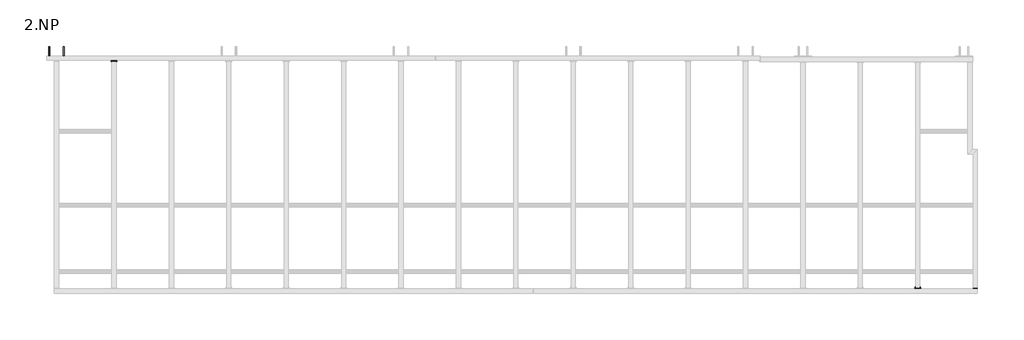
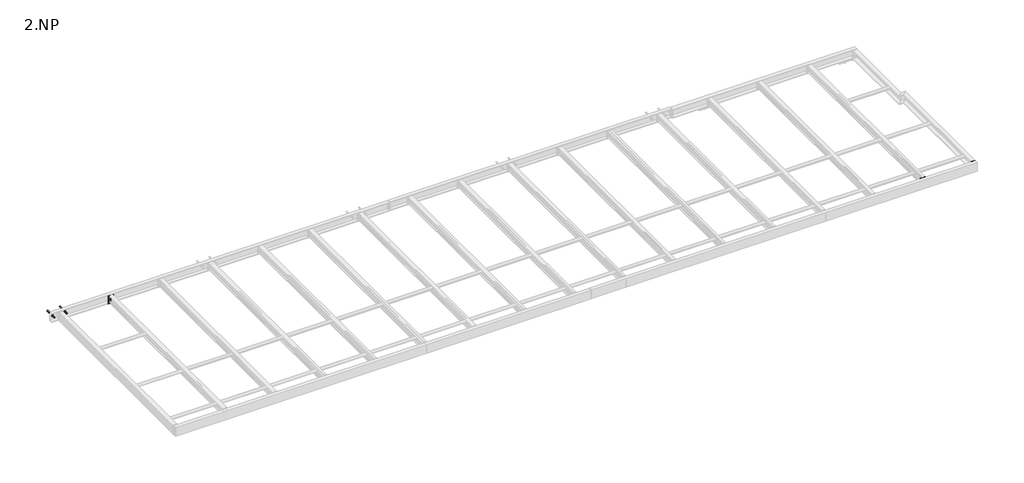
# One storey, part 8 of 18: 13 proxies.
"""IFC4 building model written with IfcOpenShell, lengths in millimetres."""

import ifcopenshell
import ifcopenshell.guid

model = None  # the IFC model being written
_history = None  # IfcOwnerHistory: only IFC2X3 demands one
_inside = {}  # id of a spatial element -> (the spatial element, [elements in it])
_under = {}  # id of a project, library or spatial element -> (it, [spatial elements below it])
_declared = {}  # id of a project -> (the project, [libraries it declares])
_typed = {}  # id of a type object -> (the type object, [elements of that type])
_made_of = {}  # id of a material, layer set ... -> (it, [elements and type objects made of it])


def new_model(schema):
    """Start an empty IFC model of exactly this schema.

    Asked for "IFC4X3", IfcOpenShell would pick the latest addendum, in which some entities
    have other attributes; the version numbers below select the first issue.
    IFC2X3 requires an IfcOwnerHistory on every rooted entity: one is made here for all.
    """
    global model, _history
    if schema == "IFC4X3":
        model = ifcopenshell.file(schema_version=(4, 3, 0, 0))
    else:
        model = ifcopenshell.file(schema=schema)
    _inside.clear()
    _under.clear()
    _declared.clear()
    _typed.clear()
    _made_of.clear()
    _history = None
    if model.schema == "IFC2X3":
        org = make("IfcOrganization", Name="unknown")
        user = make(
            "IfcPersonAndOrganization",
            ThePerson=make("IfcPerson", FamilyName="unknown"),
            TheOrganization=org,
        )
        app = make(
            "IfcApplication",
            ApplicationDeveloper=org,
            Version="unknown",
            ApplicationFullName="unknown",
            ApplicationIdentifier="unknown",
        )
        _history = make(
            "IfcOwnerHistory",
            OwningUser=user,
            OwningApplication=app,
            ChangeAction="ADDED",
            CreationDate=0,
        )
    return model


def make(cls, **values):
    """One entity of the class cls with the attributes given. An attribute that is None is left unset."""
    return model.create_entity(
        cls, **{name: value for name, value in values.items() if value is not None}
    )


def rooted(cls, **values):
    """An entity with a GlobalId (a new one), such as an element, a storey or a relation."""
    return make(cls, GlobalId=ifcopenshell.guid.new(), OwnerHistory=_history, **values)


def si_unit(unit_type, name, prefix=None):
    """IfcSIUnit, for example si_unit("LENGTHUNIT", "METRE", prefix="MILLI")."""
    return make("IfcSIUnit", UnitType=unit_type, Prefix=prefix, Name=name)


def assignment(units):
    """IfcUnitAssignment: the units of a project."""
    return None if units is None else make("IfcUnitAssignment", Units=units)


def point(xyz):
    """IfcCartesianPoint."""
    return None if xyz is None else make("IfcCartesianPoint", Coordinates=xyz)


def direction(xyz):
    """IfcDirection."""
    return None if xyz is None else make("IfcDirection", DirectionRatios=xyz)


def frame(location, z_axis=None, x_axis=None):
    """IfcAxis2Placement3D, a coordinate frame: its origin and axes. An axis left out is left unset."""
    return make(
        "IfcAxis2Placement3D",
        Location=point(location),
        Axis=direction(z_axis),
        RefDirection=direction(x_axis),
    )


def frame_2d(location, x_axis=None):
    """IfcAxis2Placement2D, a coordinate frame in the plane: its origin and x axis."""
    return make(
        "IfcAxis2Placement2D", Location=point(location), RefDirection=direction(x_axis)
    )


def origin():
    """The frame at (0, 0, 0) with its axes left unset."""
    return frame((0.0, 0.0, 0.0))


def place(relative_to, where):
    """IfcLocalPlacement: puts the frame where relative to a parent placement (None: the world)."""
    return make(
        "IfcLocalPlacement", PlacementRelTo=relative_to, RelativePlacement=where
    )


def context(
    kind, dimensions, precision=None, world=None, true_north=None, identifier=None
):
    """IfcGeometricRepresentationContext, for example the 3D "Model" context."""
    return make(
        "IfcGeometricRepresentationContext",
        ContextIdentifier=identifier,
        ContextType=kind,
        CoordinateSpaceDimension=dimensions,
        Precision=precision,
        WorldCoordinateSystem=world,
        TrueNorth=true_north,
    )


def project(units=None, contexts=None):
    """IfcProject with its units and contexts."""
    return rooted(
        "IfcProject",
        Name="project",
        RepresentationContexts=contexts,
        UnitsInContext=assignment(units),
    )


def spatial(cls, under=None, at=None, **own):
    """A site, building, storey or space (cls), placed at a placement, below another one or the project."""
    s = rooted(cls, ObjectPlacement=at, **own)
    if under is not None:
        _under.setdefault(under.id(), (under, []))[1].append(s)
    return s


def polyline(points):
    """IfcPolyline through the points."""
    return make("IfcPolyline", Points=[point(p) for p in points])


def circle_curve(where, radius):
    """IfcCircle in the frame where."""
    return make("IfcCircle", Position=where, Radius=radius)


def trimmed(basis, trim1, trim2, sense, master):
    """IfcTrimmedCurve: the piece of a basis curve between two trims."""
    return make(
        "IfcTrimmedCurve",
        BasisCurve=basis,
        Trim1=trim1,
        Trim2=trim2,
        SenseAgreement=sense,
        MasterRepresentation=master,
    )


def segment(curve, same_sense, transition):
    """IfcCompositeCurveSegment."""
    return make(
        "IfcCompositeCurveSegment",
        Transition=transition,
        SameSense=same_sense,
        ParentCurve=curve,
    )


def composite_curve(segments, self_intersect=None):
    """IfcCompositeCurve: segments joined end to end."""
    return make("IfcCompositeCurve", Segments=segments, SelfIntersect=self_intersect)


def outline(outer, holes=None, kind="AREA"):
    """IfcArbitraryClosedProfileDef: a profile drawn as a closed curve; with holes, ...WithVoids."""
    if holes is None:
        return make("IfcArbitraryClosedProfileDef", ProfileType=kind, OuterCurve=outer)
    return make(
        "IfcArbitraryProfileDefWithVoids",
        ProfileType=kind,
        OuterCurve=outer,
        InnerCurves=holes,
    )


def extrude(swept, where, along, depth):
    """IfcExtrudedAreaSolid: the profile swept, set in the frame where, extruded along a direction by depth."""
    return make(
        "IfcExtrudedAreaSolid",
        SweptArea=swept,
        Position=where,
        ExtrudedDirection=direction(along),
        Depth=depth,
    )


def shape(context_of_items, identifier, shape_type, items):
    """IfcShapeRepresentation: the items that make up one representation, for example the "Body"."""
    return make(
        "IfcShapeRepresentation",
        ContextOfItems=context_of_items,
        RepresentationIdentifier=identifier,
        RepresentationType=shape_type,
        Items=items,
    )


def made_of(thing, what):
    """Note that an element or type object is made of a material, layer set ...; save() writes the relation."""
    if what is not None:
        _made_of.setdefault(what.id(), (what, []))[1].append(thing)
    return thing


def element(
    cls,
    number,
    at=None,
    inside=None,
    cuts=None,
    type_object=None,
    material=None,
    context=None,
    identifier="Body",
    shape_type=None,
    held_by="IfcProductDefinitionShape",
    body=None,
    shapes=None,
    **own,
):
    """One element of the class cls, such as IfcWall. Its Tag is "e" and its number.

    at: its placement. inside: the storey or other place that contains it. cuts: it is an
    opening in that element (IfcRelVoidsElement). A single representation is given by context,
    identifier, shape_type and body (its items); several are given by shapes. held_by: the class
    of the entity that holds the representations. save() writes the other relations.
    """
    e = rooted(cls, Tag="e%d" % number, ObjectPlacement=at, **own)
    if body is not None:
        shapes = [shape(context, identifier, shape_type, body)]
    if shapes is not None:
        e.Representation = make(held_by, Representations=shapes)
    if inside is not None:
        _inside.setdefault(inside.id(), (inside, []))[1].append(e)
    if cuts is not None:
        rooted(
            "IfcRelVoidsElement", RelatingBuildingElement=cuts, RelatedOpeningElement=e
        )
    if type_object is not None:
        _typed.setdefault(type_object.id(), (type_object, []))[1].append(e)
    return made_of(e, material)


def aggregate(whole, parts):
    """IfcRelAggregates: a whole, such as a stair, and the parts it consists of."""
    return rooted("IfcRelAggregates", RelatingObject=whole, RelatedObjects=parts)


def save(model, path):
    """Write the relations noted so far, then the file.

    IfcRelAggregates (storeys below a building ...), IfcRelContainedInSpatialStructure (elements
    in a storey), IfcRelDefinesByType, IfcRelAssociatesMaterial and IfcRelDeclares: one each for
    every whole, place, type object, material and project.
    """
    for whole, parts in _under.values():
        aggregate(whole, parts)
    for where, things in _inside.values():
        rooted(
            "IfcRelContainedInSpatialStructure",
            RelatedElements=things,
            RelatingStructure=where,
        )
    for kind, things in _typed.values():
        rooted("IfcRelDefinesByType", RelatedObjects=things, RelatingType=kind)
    for what, things in _made_of.values():
        rooted("IfcRelAssociatesMaterial", RelatedObjects=things, RelatingMaterial=what)
    for by, libraries in _declared.values():
        rooted("IfcRelDeclares", RelatingContext=by, RelatedDefinitions=libraries)
    model.write(path)


model = new_model("IFC4")

# Units and contexts
model_context = context("Model", 3, world=origin())
ifc_project = project(units=[si_unit("LENGTHUNIT", "METRE", prefix="MILLI")], contexts=[model_context])

# Site, building, storey
site = spatial("IfcSite", under=ifc_project)
building = spatial("IfcBuilding", under=site)
storey = spatial("IfcBuildingStorey", under=building, Name="2.NP", Elevation=3000.0)

# Proxies
placement = place(None, origin())
element("IfcBuildingElementProxy", 1, Name="PLECH", ObjectType="PLECH", at=placement, inside=storey, context=model_context, shape_type="SweptSolid", body=[
    extrude(outline(polyline([(15000.0, -180.0), (15100.0, -180.0), (15100.0, -190.0), (15000.0, -190.0), (15000.0, -180.0)])), frame((0.0, 0.0, 3166.5), z_axis=(0.0, 0.0, 1.0), x_axis=(1.0, 0.0, 0.0)), (0.0, 0.0, 1.0), 127.0),
])
element("IfcBuildingElementProxy", 2, Name="PLECH", ObjectType="PLECH", at=placement, inside=storey, context=model_context, shape_type="SweptSolid", body=[
    extrude(outline(polyline([(1000.0, 3775.0), (1100.0, 3775.0), (1100.0, 3767.0), (1000.0, 3767.0), (1000.0, 3775.0)])), frame((0.0, 0.0, 3175.0), z_axis=(0.0, 0.0, 1.0), x_axis=(1.0, 0.0, 0.0)), (0.0, 0.0, 1.0), 110.0),
])
element("IfcBuildingElementProxy", 3, Name="PLECH", ObjectType="PLECH", at=placement, inside=storey, context=model_context, shape_type="SweptSolid", body=[
    extrude(outline(polyline([(16015.0, -180.0), (16090.0, -180.0), (16090.0, -190.0), (16015.0, -190.0), (16015.0, -180.0)])), frame((0.0, 0.0, 3130.0), z_axis=(0.0, 0.0, 1.0), x_axis=(1.0, 0.0, 0.0)), (0.0, 0.0, 1.0), 160.0),
])
element("IfcBuildingElementProxy", 4, Name="PLECH", ObjectType="PLECH", at=placement, inside=storey, context=model_context, shape_type="SweptSolid", body=[
    extrude(outline(polyline([(15000.0, -190.0), (15100.0, -190.0), (15100.0, -200.0), (15000.0, -200.0), (15000.0, -190.0)])), frame((0.0, 0.0, 3127.5), z_axis=(0.0, 0.0, 1.0), x_axis=(1.0, 0.0, 0.0)), (0.0, 0.0, 1.0), 166.0000153),
])
element("IfcBuildingElementProxy", 5, Name="PLECH", ObjectType="PLECH", at=placement, inside=storey, context=model_context, shape_type="SweptSolid", body=[
    extrude(outline(composite_curve([segment(polyline([(-200.0, 3289.5), (-200.0, 3130.5), (-249.5, 3130.5)]), True, "CONTINUOUS"), segment(trimmed(circle_curve(frame_2d((-269.5, 3130.5)), 20.0), [point((-249.5, 3130.5))], [point((-269.5, 3150.5))], True, "CARTESIAN"), True, "CONTINUOUS"), segment(polyline([(-269.5, 3150.5), (-269.5, 3269.5)]), True, "CONTINUOUS"), segment(trimmed(circle_curve(frame_2d((-269.5, 3289.5)), 20.0), [point((-269.5, 3269.5))], [point((-249.5, 3289.5))], True, "CARTESIAN"), True, "CONTINUOUS"), segment(polyline([(-249.5, 3289.5), (-200.0, 3289.5)]), True, "CONTINUOUS")], self_intersect=False)), frame((15046.0, 0.0, 0.0), z_axis=(1.0, 0.0, 0.0), x_axis=(0.0, 1.0, 0.0)), (0.0, 0.0, 1.0), 8.0),
])
element("IfcBuildingElementProxy", 6, Name="PLECH", ObjectType="PLECH", at=placement, inside=storey, context=model_context, shape_type="SweptSolid", body=[
    extrude(outline(polyline([(16015.0, -190.0), (16090.0, -190.0), (16090.0, -200.0), (16015.0, -200.0), (16015.0, -190.0)])), frame((0.0, 0.0, 3130.0), z_axis=(0.0, 0.0, 1.0), x_axis=(1.0, 0.0, 0.0)), (0.0, 0.0, 1.0), 160.0),
])
element("IfcBuildingElementProxy", 7, Name="PLECH", ObjectType="PLECH", at=placement, inside=storey, context=model_context, shape_type="SweptSolid", body=[
    extrude(outline(composite_curve([segment(polyline([(-200.0, 3289.5), (-200.0, 3130.5), (-249.5, 3130.5)]), True, "CONTINUOUS"), segment(trimmed(circle_curve(frame_2d((-269.5, 3130.5)), 20.0), [point((-249.5, 3130.5))], [point((-269.5, 3150.5))], True, "CARTESIAN"), True, "CONTINUOUS"), segment(polyline([(-269.5, 3150.5), (-269.5, 3269.5)]), True, "CONTINUOUS"), segment(trimmed(circle_curve(frame_2d((-269.5, 3289.5)), 20.0), [point((-269.5, 3269.5))], [point((-249.5, 3289.5))], True, "CARTESIAN"), True, "CONTINUOUS"), segment(polyline([(-249.5, 3289.5), (-200.0, 3289.5)]), True, "CONTINUOUS")], self_intersect=False)), frame((16076.5, 0.0, 0.0), z_axis=(1.0, 0.0, 0.0), x_axis=(0.0, 1.0, 0.0)), (0.0, 0.0, 1.0), 8.0),
])
element("IfcBuildingElementProxy", 8, Name="PLECH", ObjectType="PLECH", at=placement, inside=storey, context=model_context, shape_type="SweptSolid", body=[
    extrude(outline(polyline([(1000.0, 3785.0), (1100.0, 3785.0), (1100.0, 3775.0), (1000.0, 3775.0), (1000.0, 3785.0)])), frame((0.0, 0.0, 3128.0), z_axis=(0.0, 0.0, 1.0), x_axis=(1.0, 0.0, 0.0)), (0.0, 0.0, 1.0), 164.0),
])
element("IfcBuildingElementProxy", 9, Name="PLECH", ObjectType="PLECH", at=placement, inside=storey, context=model_context, shape_type="SweptSolid", body=[
    extrude(outline(composite_curve([segment(polyline([(3785.0, 3289.5), (3834.5, 3289.5)]), True, "CONTINUOUS"), segment(trimmed(circle_curve(frame_2d((3854.5, 3289.5)), 20.0), [point((3834.5, 3289.5))], [point((3854.5, 3269.5))], True, "CARTESIAN"), True, "CONTINUOUS"), segment(polyline([(3854.5, 3269.5), (3854.5, 3150.5)]), True, "CONTINUOUS"), segment(trimmed(circle_curve(frame_2d((3854.5, 3130.5)), 20.0), [point((3854.5, 3150.5))], [point((3834.5, 3130.5))], True, "CARTESIAN"), True, "CONTINUOUS"), segment(polyline([(3834.5, 3130.5), (3785.0, 3130.5), (3785.0, 3289.5)]), True, "CONTINUOUS")], self_intersect=False)), frame((1047.0, 0.0, 0.0), z_axis=(1.0, 0.0, 0.0), x_axis=(0.0, 1.0, 0.0)), (0.0, 0.0, 1.0), 6.0),
])
element("IfcBuildingElementProxy", 10, Name="Bolt assembly", ObjectType="Bolt assembly", at=placement, inside=storey, context=model_context, shape_type="SweptSolid", body=[
    extrude(outline(composite_curve([segment(trimmed(circle_curve(frame_2d((3260.0, 15020.0)), 6.5), [point((3260.0, 15026.5))], [point((3260.0, 15013.5))], False, "CARTESIAN"), True, "CONTINUOUS"), segment(trimmed(circle_curve(frame_2d((3260.0, 15020.0)), 6.5), [point((3260.0, 15013.5))], [point((3260.0, 15026.5))], False, "CARTESIAN"), True, "CONTINUOUS")], self_intersect=False)), frame((0.0, -199.9, 0.0), z_axis=(0.0, 1.0, 0.0), x_axis=(0.0, 0.0, 1.0)), (0.0, 0.0, 1.0), 10.0),
    extrude(outline(polyline([(3260.0, 15030.9696551), (3269.5, 15025.4848276), (3269.5, 15014.5151724), (3260.0, 15009.0303449), (3250.5, 15014.5151724), (3250.5, 15025.4848276), (3260.0, 15030.9696551)])), frame((0.0, -210.0, 0.0), z_axis=(0.0, 1.0, 0.0), x_axis=(0.0, 0.0, 1.0)), (0.0, 0.0, 1.0), 7.5),
    extrude(outline(composite_curve([segment(trimmed(circle_curve(frame_2d((3260.0, 15020.0)), 6.0), [point((3260.0, 15026.0))], [point((3260.0, 15014.0))], False, "CARTESIAN"), True, "CONTINUOUS"), segment(trimmed(circle_curve(frame_2d((3260.0, 15020.0)), 6.0), [point((3260.0, 15014.0))], [point((3260.0, 15026.0))], False, "CARTESIAN"), True, "CONTINUOUS")], self_intersect=False)), frame((0.0, -202.5, 0.0), z_axis=(0.0, 1.0, 0.0), x_axis=(0.0, 0.0, 1.0)), (0.0, 0.0, 1.0), 40.0),
    extrude(outline(composite_curve([segment(trimmed(circle_curve(frame_2d((3260.0, 15020.0)), 12.0), [point((3260.0, 15032.0))], [point((3260.0, 15008.0))], False, "CARTESIAN"), True, "CONTINUOUS"), segment(trimmed(circle_curve(frame_2d((3260.0, 15020.0)), 12.0), [point((3260.0, 15008.0))], [point((3260.0, 15032.0))], False, "CARTESIAN"), True, "CONTINUOUS")], self_intersect=False)), frame((0.0, -202.5, 0.0), z_axis=(0.0, 1.0, 0.0), x_axis=(0.0, 0.0, 1.0)), (0.0, 0.0, 1.0), 2.5),
    extrude(outline(composite_curve([segment(trimmed(circle_curve(frame_2d((3260.0, 15020.0)), 12.0), [point((3260.0, 15032.0))], [point((3260.0, 15008.0))], False, "CARTESIAN"), True, "CONTINUOUS"), segment(trimmed(circle_curve(frame_2d((3260.0, 15020.0)), 12.0), [point((3260.0, 15008.0))], [point((3260.0, 15032.0))], False, "CARTESIAN"), True, "CONTINUOUS")], self_intersect=False)), frame((0.0, -180.0, 0.0), z_axis=(0.0, 1.0, 0.0), x_axis=(0.0, 0.0, 1.0)), (0.0, 0.0, 1.0), 2.5),
    extrude(outline(polyline([(3260.0, 15030.9696551), (3269.5, 15025.4848276), (3269.5, 15014.5151724), (3260.0, 15009.0303449), (3250.5, 15014.5151724), (3250.5, 15025.4848276), (3260.0, 15030.9696551)])), frame((0.0, -177.5, 0.0), z_axis=(0.0, 1.0, 0.0), x_axis=(0.0, 0.0, 1.0)), (0.0, 0.0, 1.0), 10.0),
    extrude(outline(composite_curve([segment(trimmed(circle_curve(frame_2d((3260.0, 15020.0)), 6.5), [point((3260.0, 15026.5))], [point((3260.0, 15013.5))], False, "CARTESIAN"), True, "CONTINUOUS"), segment(trimmed(circle_curve(frame_2d((3260.0, 15020.0)), 6.5), [point((3260.0, 15013.5))], [point((3260.0, 15026.5))], False, "CARTESIAN"), True, "CONTINUOUS")], self_intersect=False)), frame((0.0, -190.1, 0.0), z_axis=(0.0, 1.0, 0.0), x_axis=(0.0, 0.0, 1.0)), (0.0, 0.0, 1.0), 10.1),
    extrude(outline(composite_curve([segment(trimmed(circle_curve(frame_2d((3260.0, 15080.0)), 6.5), [point((3260.0, 15086.5))], [point((3260.0, 15073.5))], False, "CARTESIAN"), True, "CONTINUOUS"), segment(trimmed(circle_curve(frame_2d((3260.0, 15080.0)), 6.5), [point((3260.0, 15073.5))], [point((3260.0, 15086.5))], False, "CARTESIAN"), True, "CONTINUOUS")], self_intersect=False)), frame((0.0, -199.9, 0.0), z_axis=(0.0, 1.0, 0.0), x_axis=(0.0, 0.0, 1.0)), (0.0, 0.0, 1.0), 10.0),
    extrude(outline(polyline([(3260.0, 15090.9696551), (3269.5, 15085.4848276), (3269.5, 15074.5151724), (3260.0, 15069.0303449), (3250.5, 15074.5151724), (3250.5, 15085.4848276), (3260.0, 15090.9696551)])), frame((0.0, -210.0, 0.0), z_axis=(0.0, 1.0, 0.0), x_axis=(0.0, 0.0, 1.0)), (0.0, 0.0, 1.0), 7.5),
    extrude(outline(composite_curve([segment(trimmed(circle_curve(frame_2d((3260.0, 15080.0)), 6.0), [point((3260.0, 15086.0))], [point((3260.0, 15074.0))], False, "CARTESIAN"), True, "CONTINUOUS"), segment(trimmed(circle_curve(frame_2d((3260.0, 15080.0)), 6.0), [point((3260.0, 15074.0))], [point((3260.0, 15086.0))], False, "CARTESIAN"), True, "CONTINUOUS")], self_intersect=False)), frame((0.0, -202.5, 0.0), z_axis=(0.0, 1.0, 0.0), x_axis=(0.0, 0.0, 1.0)), (0.0, 0.0, 1.0), 40.0),
    extrude(outline(composite_curve([segment(trimmed(circle_curve(frame_2d((3260.0, 15080.0)), 12.0), [point((3260.0, 15092.0))], [point((3260.0, 15068.0))], False, "CARTESIAN"), True, "CONTINUOUS"), segment(trimmed(circle_curve(frame_2d((3260.0, 15080.0)), 12.0), [point((3260.0, 15068.0))], [point((3260.0, 15092.0))], False, "CARTESIAN"), True, "CONTINUOUS")], self_intersect=False)), frame((0.0, -202.5, 0.0), z_axis=(0.0, 1.0, 0.0), x_axis=(0.0, 0.0, 1.0)), (0.0, 0.0, 1.0), 2.5),
    extrude(outline(composite_curve([segment(trimmed(circle_curve(frame_2d((3260.0, 15080.0)), 12.0), [point((3260.0, 15092.0))], [point((3260.0, 15068.0))], False, "CARTESIAN"), True, "CONTINUOUS"), segment(trimmed(circle_curve(frame_2d((3260.0, 15080.0)), 12.0), [point((3260.0, 15068.0))], [point((3260.0, 15092.0))], False, "CARTESIAN"), True, "CONTINUOUS")], self_intersect=False)), frame((0.0, -180.0, 0.0), z_axis=(0.0, 1.0, 0.0), x_axis=(0.0, 0.0, 1.0)), (0.0, 0.0, 1.0), 2.5),
    extrude(outline(polyline([(3260.0, 15090.9696551), (3269.5, 15085.4848276), (3269.5, 15074.5151724), (3260.0, 15069.0303449), (3250.5, 15074.5151724), (3250.5, 15085.4848276), (3260.0, 15090.9696551)])), frame((0.0, -177.5, 0.0), z_axis=(0.0, 1.0, 0.0), x_axis=(0.0, 0.0, 1.0)), (0.0, 0.0, 1.0), 10.0),
    extrude(outline(composite_curve([segment(trimmed(circle_curve(frame_2d((3260.0, 15080.0)), 6.5), [point((3260.0, 15086.5))], [point((3260.0, 15073.5))], False, "CARTESIAN"), True, "CONTINUOUS"), segment(trimmed(circle_curve(frame_2d((3260.0, 15080.0)), 6.5), [point((3260.0, 15073.5))], [point((3260.0, 15086.5))], False, "CARTESIAN"), True, "CONTINUOUS")], self_intersect=False)), frame((0.0, -190.1, 0.0), z_axis=(0.0, 1.0, 0.0), x_axis=(0.0, 0.0, 1.0)), (0.0, 0.0, 1.0), 10.1),
    extrude(outline(composite_curve([segment(trimmed(circle_curve(frame_2d((3200.0, 15020.0)), 6.5), [point((3200.0, 15026.5))], [point((3200.0, 15013.5))], False, "CARTESIAN"), True, "CONTINUOUS"), segment(trimmed(circle_curve(frame_2d((3200.0, 15020.0)), 6.5), [point((3200.0, 15013.5))], [point((3200.0, 15026.5))], False, "CARTESIAN"), True, "CONTINUOUS")], self_intersect=False)), frame((0.0, -199.9, 0.0), z_axis=(0.0, 1.0, 0.0), x_axis=(0.0, 0.0, 1.0)), (0.0, 0.0, 1.0), 10.0),
    extrude(outline(polyline([(3200.0, 15030.9696551), (3209.5, 15025.4848276), (3209.5, 15014.5151724), (3200.0, 15009.0303449), (3190.5, 15014.5151724), (3190.5, 15025.4848276), (3200.0, 15030.9696551)])), frame((0.0, -210.0, 0.0), z_axis=(0.0, 1.0, 0.0), x_axis=(0.0, 0.0, 1.0)), (0.0, 0.0, 1.0), 7.5),
    extrude(outline(composite_curve([segment(trimmed(circle_curve(frame_2d((3200.0, 15020.0)), 6.0), [point((3200.0, 15026.0))], [point((3200.0, 15014.0))], False, "CARTESIAN"), True, "CONTINUOUS"), segment(trimmed(circle_curve(frame_2d((3200.0, 15020.0)), 6.0), [point((3200.0, 15014.0))], [point((3200.0, 15026.0))], False, "CARTESIAN"), True, "CONTINUOUS")], self_intersect=False)), frame((0.0, -202.5, 0.0), z_axis=(0.0, 1.0, 0.0), x_axis=(0.0, 0.0, 1.0)), (0.0, 0.0, 1.0), 40.0),
    extrude(outline(composite_curve([segment(trimmed(circle_curve(frame_2d((3200.0, 15020.0)), 12.0), [point((3200.0, 15032.0))], [point((3200.0, 15008.0))], False, "CARTESIAN"), True, "CONTINUOUS"), segment(trimmed(circle_curve(frame_2d((3200.0, 15020.0)), 12.0), [point((3200.0, 15008.0))], [point((3200.0, 15032.0))], False, "CARTESIAN"), True, "CONTINUOUS")], self_intersect=False)), frame((0.0, -202.5, 0.0), z_axis=(0.0, 1.0, 0.0), x_axis=(0.0, 0.0, 1.0)), (0.0, 0.0, 1.0), 2.5),
    extrude(outline(composite_curve([segment(trimmed(circle_curve(frame_2d((3200.0, 15020.0)), 12.0), [point((3200.0, 15032.0))], [point((3200.0, 15008.0))], False, "CARTESIAN"), True, "CONTINUOUS"), segment(trimmed(circle_curve(frame_2d((3200.0, 15020.0)), 12.0), [point((3200.0, 15008.0))], [point((3200.0, 15032.0))], False, "CARTESIAN"), True, "CONTINUOUS")], self_intersect=False)), frame((0.0, -180.0, 0.0), z_axis=(0.0, 1.0, 0.0), x_axis=(0.0, 0.0, 1.0)), (0.0, 0.0, 1.0), 2.5),
    extrude(outline(polyline([(3200.0, 15030.9696551), (3209.5, 15025.4848276), (3209.5, 15014.5151724), (3200.0, 15009.0303449), (3190.5, 15014.5151724), (3190.5, 15025.4848276), (3200.0, 15030.9696551)])), frame((0.0, -177.5, 0.0), z_axis=(0.0, 1.0, 0.0), x_axis=(0.0, 0.0, 1.0)), (0.0, 0.0, 1.0), 10.0),
    extrude(outline(composite_curve([segment(trimmed(circle_curve(frame_2d((3200.0, 15020.0)), 6.5), [point((3200.0, 15026.5))], [point((3200.0, 15013.5))], False, "CARTESIAN"), True, "CONTINUOUS"), segment(trimmed(circle_curve(frame_2d((3200.0, 15020.0)), 6.5), [point((3200.0, 15013.5))], [point((3200.0, 15026.5))], False, "CARTESIAN"), True, "CONTINUOUS")], self_intersect=False)), frame((0.0, -190.1, 0.0), z_axis=(0.0, 1.0, 0.0), x_axis=(0.0, 0.0, 1.0)), (0.0, 0.0, 1.0), 10.1),
    extrude(outline(composite_curve([segment(trimmed(circle_curve(frame_2d((3200.0, 15080.0)), 6.5), [point((3200.0, 15086.5))], [point((3200.0, 15073.5))], False, "CARTESIAN"), True, "CONTINUOUS"), segment(trimmed(circle_curve(frame_2d((3200.0, 15080.0)), 6.5), [point((3200.0, 15073.5))], [point((3200.0, 15086.5))], False, "CARTESIAN"), True, "CONTINUOUS")], self_intersect=False)), frame((0.0, -199.9, 0.0), z_axis=(0.0, 1.0, 0.0), x_axis=(0.0, 0.0, 1.0)), (0.0, 0.0, 1.0), 10.0),
    extrude(outline(polyline([(3200.0, 15090.9696551), (3209.5, 15085.4848276), (3209.5, 15074.5151724), (3200.0, 15069.0303449), (3190.5, 15074.5151724), (3190.5, 15085.4848276), (3200.0, 15090.9696551)])), frame((0.0, -210.0, 0.0), z_axis=(0.0, 1.0, 0.0), x_axis=(0.0, 0.0, 1.0)), (0.0, 0.0, 1.0), 7.5),
    extrude(outline(composite_curve([segment(trimmed(circle_curve(frame_2d((3200.0, 15080.0)), 6.0), [point((3200.0, 15086.0))], [point((3200.0, 15074.0))], False, "CARTESIAN"), True, "CONTINUOUS"), segment(trimmed(circle_curve(frame_2d((3200.0, 15080.0)), 6.0), [point((3200.0, 15074.0))], [point((3200.0, 15086.0))], False, "CARTESIAN"), True, "CONTINUOUS")], self_intersect=False)), frame((0.0, -202.5, 0.0), z_axis=(0.0, 1.0, 0.0), x_axis=(0.0, 0.0, 1.0)), (0.0, 0.0, 1.0), 40.0),
    extrude(outline(composite_curve([segment(trimmed(circle_curve(frame_2d((3200.0, 15080.0)), 12.0), [point((3200.0, 15092.0))], [point((3200.0, 15068.0))], False, "CARTESIAN"), True, "CONTINUOUS"), segment(trimmed(circle_curve(frame_2d((3200.0, 15080.0)), 12.0), [point((3200.0, 15068.0))], [point((3200.0, 15092.0))], False, "CARTESIAN"), True, "CONTINUOUS")], self_intersect=False)), frame((0.0, -202.5, 0.0), z_axis=(0.0, 1.0, 0.0), x_axis=(0.0, 0.0, 1.0)), (0.0, 0.0, 1.0), 2.5),
    extrude(outline(composite_curve([segment(trimmed(circle_curve(frame_2d((3200.0, 15080.0)), 12.0), [point((3200.0, 15092.0))], [point((3200.0, 15068.0))], False, "CARTESIAN"), True, "CONTINUOUS"), segment(trimmed(circle_curve(frame_2d((3200.0, 15080.0)), 12.0), [point((3200.0, 15068.0))], [point((3200.0, 15092.0))], False, "CARTESIAN"), True, "CONTINUOUS")], self_intersect=False)), frame((0.0, -180.0, 0.0), z_axis=(0.0, 1.0, 0.0), x_axis=(0.0, 0.0, 1.0)), (0.0, 0.0, 1.0), 2.5),
    extrude(outline(polyline([(3200.0, 15090.9696551), (3209.5, 15085.4848276), (3209.5, 15074.5151724), (3200.0, 15069.0303449), (3190.5, 15074.5151724), (3190.5, 15085.4848276), (3200.0, 15090.9696551)])), frame((0.0, -177.5, 0.0), z_axis=(0.0, 1.0, 0.0), x_axis=(0.0, 0.0, 1.0)), (0.0, 0.0, 1.0), 10.0),
    extrude(outline(composite_curve([segment(trimmed(circle_curve(frame_2d((3200.0, 15080.0)), 6.5), [point((3200.0, 15086.5))], [point((3200.0, 15073.5))], False, "CARTESIAN"), True, "CONTINUOUS"), segment(trimmed(circle_curve(frame_2d((3200.0, 15080.0)), 6.5), [point((3200.0, 15073.5))], [point((3200.0, 15086.5))], False, "CARTESIAN"), True, "CONTINUOUS")], self_intersect=False)), frame((0.0, -190.1, 0.0), z_axis=(0.0, 1.0, 0.0), x_axis=(0.0, 0.0, 1.0)), (0.0, 0.0, 1.0), 10.1),
])
element("IfcBuildingElementProxy", 11, Name="Bolt assembly", ObjectType="Bolt assembly", at=placement, inside=storey, context=model_context, shape_type="SweptSolid", body=[
    extrude(outline(composite_curve([segment(trimmed(circle_curve(frame_2d((3170.0, 16050.0)), 9.0), [point((3170.0, 16059.0))], [point((3170.0, 16041.0))], False, "CARTESIAN"), True, "CONTINUOUS"), segment(trimmed(circle_curve(frame_2d((3170.0, 16050.0)), 9.0), [point((3170.0, 16041.0))], [point((3170.0, 16059.0))], False, "CARTESIAN"), True, "CONTINUOUS")], self_intersect=False)), frame((0.0, -199.9, 0.0), z_axis=(0.0, 1.0, 0.0), x_axis=(0.0, 0.0, 1.0)), (0.0, 0.0, 1.0), 10.0),
    extrude(outline(polyline([(3170.0, 16063.8564065), (3182.0, 16056.9282032), (3182.0, 16043.0717968), (3170.0, 16036.1435935), (3158.0, 16043.0717968), (3158.0, 16056.9282032), (3170.0, 16063.8564065)])), frame((0.0, -213.0, 0.0), z_axis=(0.0, 1.0, 0.0), x_axis=(0.0, 0.0, 1.0)), (0.0, 0.0, 1.0), 10.0),
    extrude(outline(composite_curve([segment(trimmed(circle_curve(frame_2d((3170.0, 16050.0)), 8.0), [point((3170.0, 16058.0))], [point((3170.0, 16042.0))], False, "CARTESIAN"), True, "CONTINUOUS"), segment(trimmed(circle_curve(frame_2d((3170.0, 16050.0)), 8.0), [point((3170.0, 16042.0))], [point((3170.0, 16058.0))], False, "CARTESIAN"), True, "CONTINUOUS")], self_intersect=False)), frame((0.0, -203.0, 0.0), z_axis=(0.0, 1.0, 0.0), x_axis=(0.0, 0.0, 1.0)), (0.0, 0.0, 1.0), 50.0),
    extrude(outline(composite_curve([segment(trimmed(circle_curve(frame_2d((3170.0, 16050.0)), 15.0), [point((3170.0, 16065.0))], [point((3170.0, 16035.0))], False, "CARTESIAN"), True, "CONTINUOUS"), segment(trimmed(circle_curve(frame_2d((3170.0, 16050.0)), 15.0), [point((3170.0, 16035.0))], [point((3170.0, 16065.0))], False, "CARTESIAN"), True, "CONTINUOUS")], self_intersect=False)), frame((0.0, -203.0, 0.0), z_axis=(0.0, 1.0, 0.0), x_axis=(0.0, 0.0, 1.0)), (0.0, 0.0, 1.0), 3.0),
    extrude(outline(composite_curve([segment(trimmed(circle_curve(frame_2d((3170.0, 16050.0)), 15.0), [point((3170.0, 16065.0))], [point((3170.0, 16035.0))], False, "CARTESIAN"), True, "CONTINUOUS"), segment(trimmed(circle_curve(frame_2d((3170.0, 16050.0)), 15.0), [point((3170.0, 16035.0))], [point((3170.0, 16065.0))], False, "CARTESIAN"), True, "CONTINUOUS")], self_intersect=False)), frame((0.0, -180.0, 0.0), z_axis=(0.0, 1.0, 0.0), x_axis=(0.0, 0.0, 1.0)), (0.0, 0.0, 1.0), 3.0),
    extrude(outline(polyline([(3170.0, 16065.4441197), (3183.375, 16057.7220599), (3183.375, 16042.2779401), (3170.0, 16034.5558803), (3156.625, 16042.2779401), (3156.625, 16057.7220599), (3170.0, 16065.4441197)])), frame((0.0, -177.0, 0.0), z_axis=(0.0, 1.0, 0.0), x_axis=(0.0, 0.0, 1.0)), (0.0, 0.0, 1.0), 13.0),
    extrude(outline(composite_curve([segment(trimmed(circle_curve(frame_2d((3170.0, 16050.0)), 9.0), [point((3170.0, 16059.0))], [point((3170.0, 16041.0))], False, "CARTESIAN"), True, "CONTINUOUS"), segment(trimmed(circle_curve(frame_2d((3170.0, 16050.0)), 9.0), [point((3170.0, 16041.0))], [point((3170.0, 16059.0))], False, "CARTESIAN"), True, "CONTINUOUS")], self_intersect=False)), frame((0.0, -190.1, 0.0), z_axis=(0.0, 1.0, 0.0), x_axis=(0.0, 0.0, 1.0)), (0.0, 0.0, 1.0), 10.1),
    extrude(outline(composite_curve([segment(trimmed(circle_curve(frame_2d((3250.0, 16050.0)), 9.0), [point((3250.0, 16059.0))], [point((3250.0, 16041.0))], False, "CARTESIAN"), True, "CONTINUOUS"), segment(trimmed(circle_curve(frame_2d((3250.0, 16050.0)), 9.0), [point((3250.0, 16041.0))], [point((3250.0, 16059.0))], False, "CARTESIAN"), True, "CONTINUOUS")], self_intersect=False)), frame((0.0, -199.9, 0.0), z_axis=(0.0, 1.0, 0.0), x_axis=(0.0, 0.0, 1.0)), (0.0, 0.0, 1.0), 10.0),
    extrude(outline(polyline([(3250.0, 16063.8564065), (3262.0, 16056.9282032), (3262.0, 16043.0717968), (3250.0, 16036.1435935), (3238.0, 16043.0717968), (3238.0, 16056.9282032), (3250.0, 16063.8564065)])), frame((0.0, -213.0, 0.0), z_axis=(0.0, 1.0, 0.0), x_axis=(0.0, 0.0, 1.0)), (0.0, 0.0, 1.0), 10.0),
    extrude(outline(composite_curve([segment(trimmed(circle_curve(frame_2d((3250.0, 16050.0)), 8.0), [point((3250.0, 16058.0))], [point((3250.0, 16042.0))], False, "CARTESIAN"), True, "CONTINUOUS"), segment(trimmed(circle_curve(frame_2d((3250.0, 16050.0)), 8.0), [point((3250.0, 16042.0))], [point((3250.0, 16058.0))], False, "CARTESIAN"), True, "CONTINUOUS")], self_intersect=False)), frame((0.0, -203.0, 0.0), z_axis=(0.0, 1.0, 0.0), x_axis=(0.0, 0.0, 1.0)), (0.0, 0.0, 1.0), 50.0),
    extrude(outline(composite_curve([segment(trimmed(circle_curve(frame_2d((3250.0, 16050.0)), 15.0), [point((3250.0, 16065.0))], [point((3250.0, 16035.0))], False, "CARTESIAN"), True, "CONTINUOUS"), segment(trimmed(circle_curve(frame_2d((3250.0, 16050.0)), 15.0), [point((3250.0, 16035.0))], [point((3250.0, 16065.0))], False, "CARTESIAN"), True, "CONTINUOUS")], self_intersect=False)), frame((0.0, -203.0, 0.0), z_axis=(0.0, 1.0, 0.0), x_axis=(0.0, 0.0, 1.0)), (0.0, 0.0, 1.0), 3.0),
    extrude(outline(composite_curve([segment(trimmed(circle_curve(frame_2d((3250.0, 16050.0)), 15.0), [point((3250.0, 16065.0))], [point((3250.0, 16035.0))], False, "CARTESIAN"), True, "CONTINUOUS"), segment(trimmed(circle_curve(frame_2d((3250.0, 16050.0)), 15.0), [point((3250.0, 16035.0))], [point((3250.0, 16065.0))], False, "CARTESIAN"), True, "CONTINUOUS")], self_intersect=False)), frame((0.0, -180.0, 0.0), z_axis=(0.0, 1.0, 0.0), x_axis=(0.0, 0.0, 1.0)), (0.0, 0.0, 1.0), 3.0),
    extrude(outline(polyline([(3250.0, 16065.4441197), (3263.375, 16057.7220599), (3263.375, 16042.2779401), (3250.0, 16034.5558803), (3236.625, 16042.2779401), (3236.625, 16057.7220599), (3250.0, 16065.4441197)])), frame((0.0, -177.0, 0.0), z_axis=(0.0, 1.0, 0.0), x_axis=(0.0, 0.0, 1.0)), (0.0, 0.0, 1.0), 13.0),
    extrude(outline(composite_curve([segment(trimmed(circle_curve(frame_2d((3250.0, 16050.0)), 9.0), [point((3250.0, 16059.0))], [point((3250.0, 16041.0))], False, "CARTESIAN"), True, "CONTINUOUS"), segment(trimmed(circle_curve(frame_2d((3250.0, 16050.0)), 9.0), [point((3250.0, 16041.0))], [point((3250.0, 16059.0))], False, "CARTESIAN"), True, "CONTINUOUS")], self_intersect=False)), frame((0.0, -190.1, 0.0), z_axis=(0.0, 1.0, 0.0), x_axis=(0.0, 0.0, 1.0)), (0.0, 0.0, 1.0), 10.1),
])
element("IfcBuildingElementProxy", 12, Name="Bolt assembly", ObjectType="Bolt assembly", at=placement, inside=storey, context=model_context, shape_type="SweptSolid", body=[
    extrude(outline(polyline([(3210.0, -65.1850454), (3218.5, -70.0925227), (3218.5, -79.9074773), (3210.0, -84.8149546), (3201.5, -79.9074773), (3201.5, -70.0925227), (3210.0, -65.1850454)])), frame((0.0, 3860.0, 0.0), z_axis=(0.0, 1.0, 0.0), x_axis=(0.0, 0.0, 1.0)), (0.0, 0.0, 1.0), 168.0),
    extrude(outline(composite_curve([segment(trimmed(circle_curve(frame_2d((3210.0, -75.0)), 10.0), [point((3210.0, -65.0))], [point((3210.0, -85.0))], False, "CARTESIAN"), True, "CONTINUOUS"), segment(trimmed(circle_curve(frame_2d((3210.0, -75.0)), 10.0), [point((3210.0, -85.0))], [point((3210.0, -65.0))], False, "CARTESIAN"), True, "CONTINUOUS")], self_intersect=False)), frame((0.0, 3788.0, 0.0), z_axis=(0.0, 1.0, 0.0), x_axis=(0.0, 0.0, 1.0)), (0.0, 0.0, 1.0), 72.0),
    extrude(outline(composite_curve([segment(trimmed(circle_curve(frame_2d((3210.0, -75.0)), 18.5), [point((3210.0, -56.5))], [point((3210.0, -93.5))], False, "CARTESIAN"), True, "CONTINUOUS"), segment(trimmed(circle_curve(frame_2d((3210.0, -75.0)), 18.5), [point((3210.0, -93.5))], [point((3210.0, -56.5))], False, "CARTESIAN"), True, "CONTINUOUS")], self_intersect=False)), frame((0.0, 3851.5, 0.0), z_axis=(0.0, 1.0, 0.0), x_axis=(0.0, 0.0, 1.0)), (0.0, 0.0, 1.0), 3.0),
    extrude(outline(polyline([(3210.0, -57.6794919), (3225.0, -66.339746), (3225.0, -83.660254), (3210.0, -92.3205081), (3195.0, -83.660254), (3195.0, -66.339746), (3210.0, -57.6794919)])), frame((0.0, 3835.5, 0.0), z_axis=(0.0, 1.0, 0.0), x_axis=(0.0, 0.0, 1.0)), (0.0, 0.0, 1.0), 16.0),
    extrude(outline(composite_curve([segment(trimmed(circle_curve(frame_2d((3210.0, -75.0)), 11.0), [point((3210.0, -64.0))], [point((3210.0, -86.0))], False, "CARTESIAN"), True, "CONTINUOUS"), segment(trimmed(circle_curve(frame_2d((3210.0, -75.0)), 11.0), [point((3210.0, -86.0))], [point((3210.0, -64.0))], False, "CARTESIAN"), True, "CONTINUOUS")], self_intersect=False)), frame((0.0, 3854.4, 0.0), z_axis=(0.0, 1.0, 0.0), x_axis=(0.0, 0.0, 1.0)), (0.0, 0.0, 1.0), 5.6),
    extrude(outline(polyline([(3210.0, 184.8149546), (3218.5, 179.9074773), (3218.5, 170.0925227), (3210.0, 165.1850454), (3201.5, 170.0925227), (3201.5, 179.9074773), (3210.0, 184.8149546)])), frame((0.0, 3860.0, 0.0), z_axis=(0.0, 1.0, 0.0), x_axis=(0.0, 0.0, 1.0)), (0.0, 0.0, 1.0), 168.0),
    extrude(outline(composite_curve([segment(trimmed(circle_curve(frame_2d((3210.0, 175.0)), 10.0), [point((3210.0, 185.0))], [point((3210.0, 165.0))], False, "CARTESIAN"), True, "CONTINUOUS"), segment(trimmed(circle_curve(frame_2d((3210.0, 175.0)), 10.0), [point((3210.0, 165.0))], [point((3210.0, 185.0))], False, "CARTESIAN"), True, "CONTINUOUS")], self_intersect=False)), frame((0.0, 3788.0, 0.0), z_axis=(0.0, 1.0, 0.0), x_axis=(0.0, 0.0, 1.0)), (0.0, 0.0, 1.0), 72.0),
    extrude(outline(composite_curve([segment(trimmed(circle_curve(frame_2d((3210.0, 175.0)), 18.5), [point((3210.0, 193.5))], [point((3210.0, 156.5))], False, "CARTESIAN"), True, "CONTINUOUS"), segment(trimmed(circle_curve(frame_2d((3210.0, 175.0)), 18.5), [point((3210.0, 156.5))], [point((3210.0, 193.5))], False, "CARTESIAN"), True, "CONTINUOUS")], self_intersect=False)), frame((0.0, 3851.5, 0.0), z_axis=(0.0, 1.0, 0.0), x_axis=(0.0, 0.0, 1.0)), (0.0, 0.0, 1.0), 3.0),
    extrude(outline(polyline([(3210.0, 192.3205081), (3225.0, 183.660254), (3225.0, 166.339746), (3210.0, 157.6794919), (3195.0, 166.339746), (3195.0, 183.660254), (3210.0, 192.3205081)])), frame((0.0, 3835.5, 0.0), z_axis=(0.0, 1.0, 0.0), x_axis=(0.0, 0.0, 1.0)), (0.0, 0.0, 1.0), 16.0),
    extrude(outline(composite_curve([segment(trimmed(circle_curve(frame_2d((3210.0, 175.0)), 11.0), [point((3210.0, 186.0))], [point((3210.0, 164.0))], False, "CARTESIAN"), True, "CONTINUOUS"), segment(trimmed(circle_curve(frame_2d((3210.0, 175.0)), 11.0), [point((3210.0, 164.0))], [point((3210.0, 186.0))], False, "CARTESIAN"), True, "CONTINUOUS")], self_intersect=False)), frame((0.0, 3854.4, 0.0), z_axis=(0.0, 1.0, 0.0), x_axis=(0.0, 0.0, 1.0)), (0.0, 0.0, 1.0), 5.6),
])
element("IfcBuildingElementProxy", 13, Name="Bolt assembly 1", ObjectType="Bolt assembly 1", at=placement, inside=storey, context=model_context, shape_type="SweptSolid", body=[
    extrude(outline(composite_curve([segment(trimmed(circle_curve(frame_2d((3170.0, 50.0)), 9.0), [point((3170.0, 41.0))], [point((3170.0, 59.0))], False, "CARTESIAN"), True, "CONTINUOUS"), segment(trimmed(circle_curve(frame_2d((3170.0, 50.0)), 9.0), [point((3170.0, 59.0))], [point((3170.0, 41.0))], False, "CARTESIAN"), True, "CONTINUOUS")], self_intersect=False)), frame((0.0, 3774.9, 0.0), z_axis=(0.0, 1.0, 0.0), x_axis=(0.0, 0.0, 1.0)), (0.0, 0.0, 1.0), 10.0),
    extrude(outline(polyline([(3170.0, 36.1435935), (3158.0, 43.0717968), (3158.0, 56.9282032), (3170.0, 63.8564065), (3182.0, 56.9282032), (3182.0, 43.0717968), (3170.0, 36.1435935)])), frame((0.0, 3788.0, 0.0), z_axis=(0.0, 1.0, 0.0), x_axis=(0.0, 0.0, 1.0)), (0.0, 0.0, 1.0), 10.0),
    extrude(outline(composite_curve([segment(trimmed(circle_curve(frame_2d((3170.0, 50.0)), 8.0), [point((3170.0, 42.0))], [point((3170.0, 58.0))], False, "CARTESIAN"), True, "CONTINUOUS"), segment(trimmed(circle_curve(frame_2d((3170.0, 50.0)), 8.0), [point((3170.0, 58.0))], [point((3170.0, 42.0))], False, "CARTESIAN"), True, "CONTINUOUS")], self_intersect=False)), frame((0.0, 3738.0, 0.0), z_axis=(0.0, 1.0, 0.0), x_axis=(0.0, 0.0, 1.0)), (0.0, 0.0, 1.0), 50.0),
    extrude(outline(composite_curve([segment(trimmed(circle_curve(frame_2d((3170.0, 50.0)), 15.0), [point((3170.0, 35.0))], [point((3170.0, 65.0))], False, "CARTESIAN"), True, "CONTINUOUS"), segment(trimmed(circle_curve(frame_2d((3170.0, 50.0)), 15.0), [point((3170.0, 65.0))], [point((3170.0, 35.0))], False, "CARTESIAN"), True, "CONTINUOUS")], self_intersect=False)), frame((0.0, 3785.0, 0.0), z_axis=(0.0, 1.0, 0.0), x_axis=(0.0, 0.0, 1.0)), (0.0, 0.0, 1.0), 3.0),
    extrude(outline(composite_curve([segment(trimmed(circle_curve(frame_2d((3170.0, 50.0)), 15.0), [point((3170.0, 35.0))], [point((3170.0, 65.0))], False, "CARTESIAN"), True, "CONTINUOUS"), segment(trimmed(circle_curve(frame_2d((3170.0, 50.0)), 15.0), [point((3170.0, 65.0))], [point((3170.0, 35.0))], False, "CARTESIAN"), True, "CONTINUOUS")], self_intersect=False)), frame((0.0, 3762.0, 0.0), z_axis=(0.0, 1.0, 0.0), x_axis=(0.0, 0.0, 1.0)), (0.0, 0.0, 1.0), 3.0),
    extrude(outline(polyline([(3170.0, 34.5558803), (3156.625, 42.2779401), (3156.625, 57.7220599), (3170.0, 65.4441197), (3183.375, 57.7220599), (3183.375, 42.2779401), (3170.0, 34.5558803)])), frame((0.0, 3749.0, 0.0), z_axis=(0.0, 1.0, 0.0), x_axis=(0.0, 0.0, 1.0)), (0.0, 0.0, 1.0), 13.0),
    extrude(outline(composite_curve([segment(trimmed(circle_curve(frame_2d((3170.0, 50.0)), 9.0), [point((3170.0, 41.0))], [point((3170.0, 59.0))], False, "CARTESIAN"), True, "CONTINUOUS"), segment(trimmed(circle_curve(frame_2d((3170.0, 50.0)), 9.0), [point((3170.0, 59.0))], [point((3170.0, 41.0))], False, "CARTESIAN"), True, "CONTINUOUS")], self_intersect=False)), frame((0.0, 3765.0, 0.0), z_axis=(0.0, 1.0, 0.0), x_axis=(0.0, 0.0, 1.0)), (0.0, 0.0, 1.0), 10.1),
    extrude(outline(composite_curve([segment(trimmed(circle_curve(frame_2d((3250.0, 50.0)), 9.0), [point((3250.0, 41.0))], [point((3250.0, 59.0))], False, "CARTESIAN"), True, "CONTINUOUS"), segment(trimmed(circle_curve(frame_2d((3250.0, 50.0)), 9.0), [point((3250.0, 59.0))], [point((3250.0, 41.0))], False, "CARTESIAN"), True, "CONTINUOUS")], self_intersect=False)), frame((0.0, 3774.9, 0.0), z_axis=(0.0, 1.0, 0.0), x_axis=(0.0, 0.0, 1.0)), (0.0, 0.0, 1.0), 10.0),
    extrude(outline(polyline([(3250.0, 36.1435935), (3238.0, 43.0717968), (3238.0, 56.9282032), (3250.0, 63.8564065), (3262.0, 56.9282032), (3262.0, 43.0717968), (3250.0, 36.1435935)])), frame((0.0, 3788.0, 0.0), z_axis=(0.0, 1.0, 0.0), x_axis=(0.0, 0.0, 1.0)), (0.0, 0.0, 1.0), 10.0),
    extrude(outline(composite_curve([segment(trimmed(circle_curve(frame_2d((3250.0, 50.0)), 8.0), [point((3250.0, 42.0))], [point((3250.0, 58.0))], False, "CARTESIAN"), True, "CONTINUOUS"), segment(trimmed(circle_curve(frame_2d((3250.0, 50.0)), 8.0), [point((3250.0, 58.0))], [point((3250.0, 42.0))], False, "CARTESIAN"), True, "CONTINUOUS")], self_intersect=False)), frame((0.0, 3738.0, 0.0), z_axis=(0.0, 1.0, 0.0), x_axis=(0.0, 0.0, 1.0)), (0.0, 0.0, 1.0), 50.0),
    extrude(outline(composite_curve([segment(trimmed(circle_curve(frame_2d((3250.0, 50.0)), 15.0), [point((3250.0, 35.0))], [point((3250.0, 65.0))], False, "CARTESIAN"), True, "CONTINUOUS"), segment(trimmed(circle_curve(frame_2d((3250.0, 50.0)), 15.0), [point((3250.0, 65.0))], [point((3250.0, 35.0))], False, "CARTESIAN"), True, "CONTINUOUS")], self_intersect=False)), frame((0.0, 3785.0, 0.0), z_axis=(0.0, 1.0, 0.0), x_axis=(0.0, 0.0, 1.0)), (0.0, 0.0, 1.0), 3.0),
    extrude(outline(composite_curve([segment(trimmed(circle_curve(frame_2d((3250.0, 50.0)), 15.0), [point((3250.0, 35.0))], [point((3250.0, 65.0))], False, "CARTESIAN"), True, "CONTINUOUS"), segment(trimmed(circle_curve(frame_2d((3250.0, 50.0)), 15.0), [point((3250.0, 65.0))], [point((3250.0, 35.0))], False, "CARTESIAN"), True, "CONTINUOUS")], self_intersect=False)), frame((0.0, 3762.0, 0.0), z_axis=(0.0, 1.0, 0.0), x_axis=(0.0, 0.0, 1.0)), (0.0, 0.0, 1.0), 3.0),
    extrude(outline(polyline([(3250.0, 34.5558803), (3236.625, 42.2779401), (3236.625, 57.7220599), (3250.0, 65.4441197), (3263.375, 57.7220599), (3263.375, 42.2779401), (3250.0, 34.5558803)])), frame((0.0, 3749.0, 0.0), z_axis=(0.0, 1.0, 0.0), x_axis=(0.0, 0.0, 1.0)), (0.0, 0.0, 1.0), 13.0),
    extrude(outline(composite_curve([segment(trimmed(circle_curve(frame_2d((3250.0, 50.0)), 9.0), [point((3250.0, 41.0))], [point((3250.0, 59.0))], False, "CARTESIAN"), True, "CONTINUOUS"), segment(trimmed(circle_curve(frame_2d((3250.0, 50.0)), 9.0), [point((3250.0, 59.0))], [point((3250.0, 41.0))], False, "CARTESIAN"), True, "CONTINUOUS")], self_intersect=False)), frame((0.0, 3765.0, 0.0), z_axis=(0.0, 1.0, 0.0), x_axis=(0.0, 0.0, 1.0)), (0.0, 0.0, 1.0), 10.1),
])

save(model, "model.ifc")
